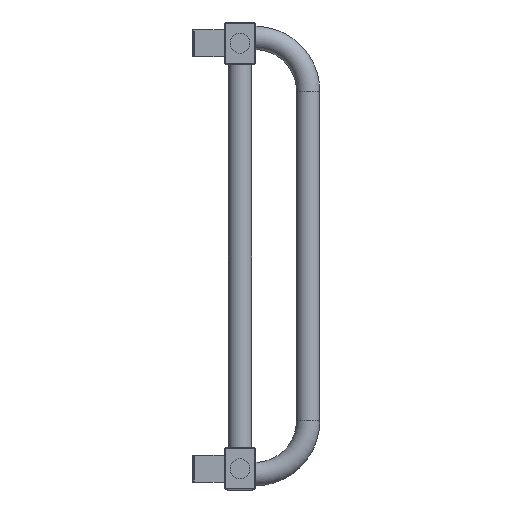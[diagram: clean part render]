
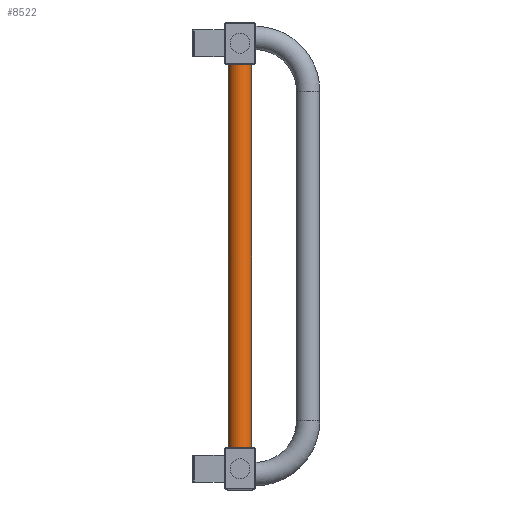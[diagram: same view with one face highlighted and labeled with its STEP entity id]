
A CAD part, left-side view. The second image highlights one B-rep face of the part: STEP entity #8522.
In plain terms, the highlighted cylindrical face has radius 11 mm (diameter 22 mm), a full revolution.
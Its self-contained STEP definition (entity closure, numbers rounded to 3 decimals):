
#8495=CARTESIAN_POINT('',(30.,0.,400.));
#8496=DIRECTION('',(0.,0.,-1.0));
#8497=DIRECTION('',(-0.508,-0.861,0.));
#8498=AXIS2_PLACEMENT_3D('',#8495,#8496,#8497);
#8499=CYLINDRICAL_SURFACE('',#8498,11.);
#8500=CARTESIAN_POINT('',(35.593,9.472,40.));
#8501=VERTEX_POINT('',#8500);
#8502=CARTESIAN_POINT('',(30.,0.,40.));
#8503=DIRECTION('',(0.,0.,-1.0));
#8504=DIRECTION('',(-0.508,-0.861,0.));
#8505=AXIS2_PLACEMENT_3D('',#8502,#8503,#8504);
#8506=CIRCLE('',#8505,11.);
#8507=EDGE_CURVE('',#8501,#8501,#8506,.T.);
#8508=ORIENTED_EDGE('',*,*,#8507,.F.);
#8509=EDGE_LOOP('',(#8508));
#8510=FACE_OUTER_BOUND('',#8509,.T.);
#8511=CARTESIAN_POINT('',(35.593,9.472,400.));
#8512=VERTEX_POINT('',#8511);
#8513=CARTESIAN_POINT('',(30.,0.,400.));
#8514=DIRECTION('',(0.,0.,1.0));
#8515=DIRECTION('',(-0.508,-0.861,0.));
#8516=AXIS2_PLACEMENT_3D('',#8513,#8514,#8515);
#8517=CIRCLE('',#8516,11.);
#8518=EDGE_CURVE('',#8512,#8512,#8517,.T.);
#8519=ORIENTED_EDGE('',*,*,#8518,.F.);
#8520=EDGE_LOOP('',(#8519));
#8521=FACE_BOUND('',#8520,.T.);
#8522=ADVANCED_FACE('',(#8510,#8521),#8499,.T.);
